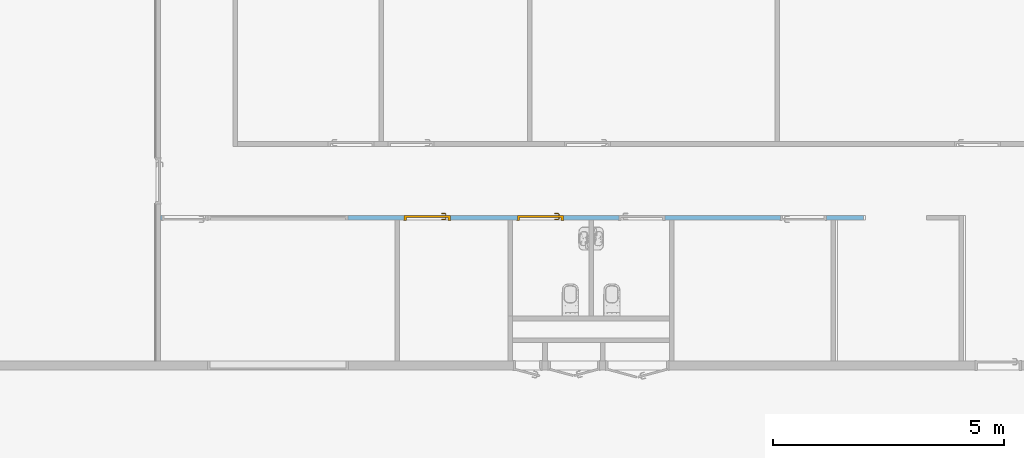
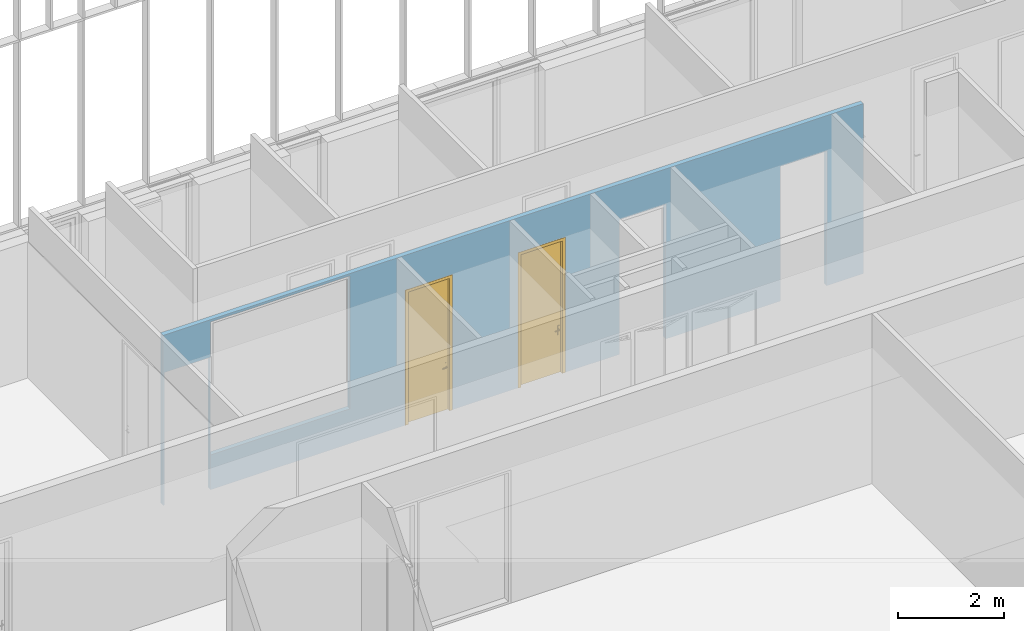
# One storey, part 141 of 240: 2 doors, 6 openings, plus 1 element that does not belong to this part.
"""IFC2X3 building model written with IfcOpenShell, lengths in centimetres."""

from ifc_helpers import new_model, entity, si_unit, converted_unit, derived_unit, direction, frame, frame_2d, origin, place, context, subcontext, project, spatial, polyline, rectangle, extrude, clip, bounded_halfspace, faceted_brep, source, transform, mapped, material, material_list, layer, layer_set, layer_usage, type_object, type_shapes, element, fill, save


model = new_model("IFC2X3")

# Units and contexts
model_context = context("Model", 3, precision=0.001, world=origin(), true_north=direction((6.12303176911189e-17, 1.0)))
body_context = subcontext(model_context, "Body", "Model", "MODEL_VIEW")
ifc_project = project(units=[si_unit("LENGTHUNIT", "METRE", prefix="CENTI"), si_unit("AREAUNIT", "SQUARE_METRE"), si_unit("VOLUMEUNIT", "CUBIC_METRE"), converted_unit("PLANEANGLEUNIT", "DEGREE", entity("IfcRatioMeasure", 0.0174532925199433), si_unit("PLANEANGLEUNIT", "RADIAN"), dimensions=[0, 0, 0, 0, 0, 0, 0]), si_unit("MASSUNIT", "GRAM", prefix="KILO"), derived_unit("MASSDENSITYUNIT", [(si_unit("MASSUNIT", "GRAM", prefix="KILO"), 1), (si_unit("LENGTHUNIT", "METRE"), -3)]), si_unit("TIMEUNIT", "SECOND"), si_unit("FREQUENCYUNIT", "HERTZ"), si_unit("THERMODYNAMICTEMPERATUREUNIT", "DEGREE_CELSIUS"), derived_unit("THERMALTRANSMITTANCEUNIT", [(si_unit("MASSUNIT", "GRAM", prefix="KILO"), 1), (si_unit("THERMODYNAMICTEMPERATUREUNIT", "KELVIN"), -1), (si_unit("TIMEUNIT", "SECOND"), -3)]), derived_unit("VOLUMETRICFLOWRATEUNIT", [(si_unit("LENGTHUNIT", "METRE"), 3), (si_unit("TIMEUNIT", "SECOND"), -1)]), si_unit("ELECTRICCURRENTUNIT", "AMPERE"), si_unit("ELECTRICVOLTAGEUNIT", "VOLT"), si_unit("POWERUNIT", "WATT"), si_unit("FORCEUNIT", "NEWTON", prefix="KILO"), si_unit("ILLUMINANCEUNIT", "LUX"), si_unit("LUMINOUSFLUXUNIT", "LUMEN"), si_unit("LUMINOUSINTENSITYUNIT", "CANDELA"), derived_unit("USERDEFINED", [(si_unit("MASSUNIT", "GRAM", prefix="KILO"), -1), (si_unit("LENGTHUNIT", "METRE"), -2), (si_unit("TIMEUNIT", "SECOND"), 3), (si_unit("LUMINOUSFLUXUNIT", "LUMEN"), 1)]), derived_unit("LINEARVELOCITYUNIT", [(si_unit("LENGTHUNIT", "METRE"), 1), (si_unit("TIMEUNIT", "SECOND"), -1)]), si_unit("PRESSUREUNIT", "PASCAL"), derived_unit("USERDEFINED", [(si_unit("LENGTHUNIT", "METRE"), -2), (si_unit("MASSUNIT", "GRAM", prefix="KILO"), 1), (si_unit("TIMEUNIT", "SECOND"), -2)])], contexts=[model_context])

# Site, building, storey
site_placement = place(None, frame((-2781.94577612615, 7442.24238424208, 0.0)))
site = spatial("IfcSite", under=ifc_project, at=site_placement, Name="Default", CompositionType="ELEMENT")
building_placement = place(site_placement, origin())
building = spatial("IfcBuilding", under=site, at=building_placement, CompositionType="ELEMENT")
storey_placement = place(building_placement, origin())
storey = spatial("IfcBuildingStorey", under=building, at=storey_placement, Name="N00 - COO", CompositionType="ELEMENT", Elevation=0.0)

# Wall, openings, doors
ifc_material_1 = material(Name="01 - Enduit/Plâtre")
ifc_layer_1 = layer(ifc_material_1, 1.3)
ifc_material_2 = material(Name="00 - Isolant")
ifc_layer_2 = layer(ifc_material_2, 7.4)
ifc_layer_3 = layer(ifc_material_1, 1.3)
ifc_layer_set = layer_set([ifc_layer_1, ifc_layer_2, ifc_layer_3], Name="Mur de base:06 - cloisons - Ba13 10cm")
ifc_layer_usage = layer_usage(ifc_layer_set, "AXIS2", "NEGATIVE", 5.0)
wall_type = type_object("IfcWallType", Name="Mur de base:06 - cloisons - Ba13 10cm", PredefinedType="STANDARD", material=ifc_layer_set)
wall_placement = place(building_placement, frame((-6043.49987760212, -500.0, 0.0), z_axis=(0.0, 0.0, 1.0), x_axis=(-1.0, 0.0, 0.0)))
wall = element("IfcWallStandardCase", 1, at=wall_placement, inside=storey, type_object=wall_type, material=ifc_layer_usage, Name="Mur de base:06 - cloisons - Ba13 10cm", ObjectType="Mur de base:06 - cloisons - Ba13 10cm", context=body_context, shape_type="Clipping", body=[
    clip(extrude(rectangle(XDim=1522.75, YDim=10.0000000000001, at=frame_2d((761.375000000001, 2.04281036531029e-14), x_axis=(-1.0, 0.0))), origin(), (0.0, 0.0, 1.0), 391.0), bounded_halfspace(frame((0.0, -5.0, 391.0), z_axis=(0.0, 0.0, -1.0), x_axis=(0.0, -1.0, 0.0)), True, frame((0.0, -5.0, 391.0)), polyline([(0.0, 0.0), (1522.75, 0.0), (1522.75, 10.0), (1015.0, 10.0), (1005.0, 10.0), (770.0, 10.0), (760.0, 10.0), (595.0, 10.0), (585.0, 10.0), (420.0, 10.0), (410.0, 10.0), (70.0, 10.0), (60.0, 10.0), (0.0, 10.0), (0.0, 0.0)]))),
])
opening_1_placement = place(wall_placement, frame((80.0, -5.0, 0.0)))
element("IfcOpeningElement", 2, at=opening_1_placement, cuts=wall, Name="Int. Simple:PP (0.93m x 3.06m):1", ObjectType="Opening", context=body_context, shape_type="SweptSolid", body=[
    extrude(rectangle(XDim=309.500000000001, YDim=99.9999999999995, at=frame_2d((154.750000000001, 50.0), x_axis=(1.0, 0.0))), frame((0.0, 0.0, 0.0), z_axis=(0.0, 1.0, 0.0), x_axis=(0.0, 0.0, 1.0)), (0.0, 0.0, 1.0), 10.0),
])
opening_2_placement = place(wall_placement, frame((530.0, 5.0, 0.0)))
element("IfcOpeningElement", 3, at=opening_2_placement, cuts=wall, Name="Int. Simple:PP (0.93m x 3.06m):1", ObjectType="Opening", context=body_context, shape_type="SweptSolid", body=[
    extrude(rectangle(XDim=309.500000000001, YDim=99.9999999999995, at=frame_2d((154.750000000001, 49.9999999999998), x_axis=(1.0, 0.0))), frame((0.0, 0.0, 0.0), z_axis=(0.0, -1.0, 0.0), x_axis=(0.0, 0.0, 1.0)), (0.0, 0.0, 1.0), 10.0),
])
opening_3_placement = place(wall_placement, frame((750.0, 5.0, 0.0)))
opening_3 = element("IfcOpeningElement", 4, at=opening_3_placement, cuts=wall, Name="Int. Simple:PP (0.93m x 3.06m):1", ObjectType="Opening", context=body_context, shape_type="SweptSolid", body=[
    extrude(rectangle(XDim=309.500000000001, YDim=99.9999999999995, at=frame_2d((154.750000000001, 50.0), x_axis=(1.0, 0.0))), frame((0.0, 0.0, 0.0), z_axis=(0.0, -1.0, 0.0), x_axis=(0.0, 0.0, 1.0)), (0.0, 0.0, 1.0), 10.0),
])
opening_4_placement = place(wall_placement, frame((995.0, 5.0, 0.0)))
opening_4 = element("IfcOpeningElement", 5, at=opening_4_placement, cuts=wall, Name="Int. Simple:PP (0.93m x 3.06m):1", ObjectType="Opening", context=body_context, shape_type="SweptSolid", body=[
    extrude(rectangle(XDim=309.500000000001, YDim=99.9999999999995, at=frame_2d((154.750000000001, 50.0), x_axis=(1.0, 0.0))), frame((0.0, 0.0, 0.0), z_axis=(0.0, -1.0, 0.0), x_axis=(0.0, 0.0, 1.0)), (0.0, 0.0, 1.0), 10.0),
])
opening_5_placement = place(wall_placement, frame((1420.0, -5.0, 0.0)))
element("IfcOpeningElement", 6, at=opening_5_placement, cuts=wall, Name="Int. Simple:PV (0.93m x 3.00m):1", ObjectType="Opening", context=body_context, shape_type="SweptSolid", body=[
    extrude(rectangle(XDim=304.500000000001, YDim=99.9999999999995, at=frame_2d((152.250000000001, 49.9999999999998), x_axis=(1.0, 0.0))), frame((0.0, 0.0, 0.0), z_axis=(0.0, 1.0, 0.0), x_axis=(0.0, 0.0, 1.0)), (0.0, 0.0, 1.0), 10.0),
])
opening_6_placement = place(wall_placement, frame((1116.72491693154, -5.0, 80.0)))
element("IfcOpeningElement", 7, at=opening_6_placement, cuts=wall, Name="châssis intérieur vitré:châssis intérieur vitré (h=306):1", ObjectType="Opening", context=body_context, shape_type="SweptSolid", body=[
    extrude(rectangle(XDim=306.0, YDim=302.862969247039, at=frame_2d((153.0, 151.43148462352), x_axis=(1.0, 0.0))), frame((0.0, 0.0, 0.0), z_axis=(0.0, 1.0, 0.0), x_axis=(0.0, 0.0, 1.0)), (0.0, 0.0, 1.0), 10.0),
])
ifc_material_3 = material(Name="Finition Peinture - Blanc satiné")
ifc_material_4 = material(Name="Bois - Panneau de porte")
ifc_material_5 = material(Name="Bois - Cadre de porte")
ifc_material_list_1 = material_list([ifc_material_3, ifc_material_4, ifc_material_5])
ifc_material_list_2 = material_list([ifc_material_3, ifc_material_4, ifc_material_5])
door_style = type_object("IfcDoorStyle", Name="PP (0.93m x 3.06m)", ConstructionType="NOTDEFINED", OperationType="SINGLE_SWING_LEFT", ParameterTakesPrecedence=False, Sizeable=False, material=ifc_material_list_2)
shared_shape = source(origin(), body_context, "Body", "Brep", [
    faceted_brep([(10.5352761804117, -0.500000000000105, 86.6003983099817), (11.5000000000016, -0.500000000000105, 87.0), (11.5000000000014, -0.500000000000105, 108.0), (10.5352761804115, -0.500000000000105, 108.399601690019), (9.50000000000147, -0.500000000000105, 108.535898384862), (8.46472381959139, -0.500000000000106, 108.399601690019), (7.50000000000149, -0.500000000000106, 108.0), (7.50000000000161, -0.500000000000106, 87.0), (8.46472381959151, -0.500000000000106, 86.6003983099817), (9.50000000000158, -0.500000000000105, 86.464101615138), (10.5352761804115, 0.0, 108.399601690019), (11.5000000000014, 0.0, 108.0), (11.5000000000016, 0.0, 87.0), (10.5352761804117, 0.0, 86.6003983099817), (9.50000000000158, 0.0, 86.464101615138), (8.46472381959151, 0.0, 86.6003983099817), (7.50000000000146, 0.0, 87.0), (7.50000000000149, 0.0, 108.0), (8.46472381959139, 0.0, 108.399601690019), (9.50000000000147, 0.0, 108.535898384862)], [[[0, 1, 2, 3, 4, 5, 6, 7, 8, 9]], [[10, 11, 12, 13, 14, 15, 16, 17, 18, 19]], [[16, 15, 8, 7]], [[8, 15, 14, 9]], [[14, 13, 0, 9]], [[13, 12, 1, 0]], [[2, 1, 12, 11]], [[11, 10, 3, 2]], [[3, 10, 19, 4]], [[19, 18, 5, 4]], [[18, 17, 6, 5]], [[7, 6, 17, 16]]]),
    faceted_brep([(10.5352761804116, 4.0, 86.6003983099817), (11.5000000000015, 4.0, 87.0), (11.5000000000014, 4.0, 108.0), (10.5352761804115, 4.0, 108.399601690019), (9.50000000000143, 4.0, 108.535898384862), (8.46472381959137, 4.0, 108.399601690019), (7.50000000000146, 4.0, 108.0), (7.50000000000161, 4.0, 87.0), (8.46472381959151, 4.0, 86.6003983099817), (9.50000000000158, 4.0, 86.464101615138), (10.5352761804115, 4.49999999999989, 108.399601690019), (11.5000000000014, 4.49999999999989, 108.0), (11.5000000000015, 4.49999999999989, 87.0), (10.5352761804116, 4.49999999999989, 86.6003983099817), (9.50000000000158, 4.49999999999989, 86.464101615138), (8.46472381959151, 4.49999999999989, 86.6003983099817), (7.50000000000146, 4.49999999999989, 87.0), (7.50000000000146, 4.49999999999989, 108.0), (8.46472381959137, 4.49999999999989, 108.399601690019), (9.50000000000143, 4.49999999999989, 108.535898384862)], [[[0, 1, 2, 3, 4, 5, 6, 7, 8, 9]], [[10, 11, 12, 13, 14, 15, 16, 17, 18, 19]], [[11, 10, 3, 2]], [[3, 10, 19, 4]], [[19, 18, 5, 4]], [[18, 17, 6, 5]], [[7, 6, 17, 16]], [[16, 15, 8, 7]], [[8, 15, 14, 9]], [[14, 13, 0, 9]], [[13, 12, 1, 0]], [[2, 1, 12, 11]]]),
    faceted_brep([(9.29747013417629, -0.500000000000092, 100.778044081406), (9.70252986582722, -0.50000000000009, 100.778044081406), (10.1000000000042, -0.500000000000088, 100.699999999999), (10.1000000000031, -0.500000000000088, 99.3000000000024), (9.7025298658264, -0.50000000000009, 99.2219559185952), (9.29747013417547, -0.500000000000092, 99.221955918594), (8.8999999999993, -0.500000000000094, 99.2999999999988), (8.89999999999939, -0.500000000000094, 100.7), (8.89999999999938, -3.26509507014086, 100.7), (9.29747013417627, -3.10045754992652, 100.778044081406), (10.9023585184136, -4.70534593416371, 100.778044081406), (11.0701397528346, -4.30028620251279, 100.778044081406), (9.7025298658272, -2.93267631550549, 100.778044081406), (10.1000000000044, -2.76803879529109, 100.7), (10.1000000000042, -2.76803879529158, 99.3000000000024), (9.7025298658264, -2.93267631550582, 99.2219559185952), (11.0701397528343, -4.30028620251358, 99.2219559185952), (10.9023585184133, -4.70534593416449, 99.221955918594), (9.29747013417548, -3.10045754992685, 99.221955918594), (8.89999999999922, -3.26509507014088, 99.2999999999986), (10.7377209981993, -5.10281606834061, 100.7), (11.2347772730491, -3.90281606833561, 100.7), (11.2347772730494, -3.90281606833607, 99.3000000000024), (10.7377209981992, -5.10281606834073, 99.2999999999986), (19.5018640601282, -5.10281606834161, 99.2999999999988), (19.5018640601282, -4.70534593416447, 99.221955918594), (19.5018640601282, -4.30028620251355, 99.2219559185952), (19.5018640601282, -3.9028160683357, 99.3000000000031), (19.5018640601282, -3.90281606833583, 100.7), (19.5018640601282, -4.30028620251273, 100.778044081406), (19.5018640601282, -4.70534593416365, 100.778044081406), (19.5018640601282, -5.10281606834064, 100.699999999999), (14.7307697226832, -5.10281606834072, 100.7), (15.2860019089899, -4.5028160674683, 100.78786867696), (15.3683206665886, -3.9028160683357, 100.7), (15.3683206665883, -3.9028160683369, 99.3000000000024), (15.2860018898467, -4.50281607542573, 99.2121313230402), (14.7307700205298, -5.10281606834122, 99.2999999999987)], [[[0, 1, 2, 3, 4, 5, 6, 7]], [[8, 9, 0, 7]], [[9, 10, 11, 12, 1, 0]], [[12, 13, 2, 1]], [[3, 2, 13, 14]], [[14, 15, 4, 3]], [[15, 16, 17, 18, 5, 4]], [[18, 19, 6, 5]], [[7, 6, 19, 8]], [[20, 10, 9, 8]], [[11, 21, 13, 12]], [[14, 13, 21, 22]], [[22, 16, 15, 14]], [[17, 23, 19, 18]], [[8, 19, 23, 20]], [[24, 25, 26, 27, 28, 29, 30, 31]], [[32, 30, 33]], [[31, 30, 32]], [[10, 20, 32]], [[33, 34, 11]], [[21, 11, 34]], [[34, 29, 28]], [[30, 29, 33]], [[29, 34, 33]], [[10, 32, 33]], [[10, 33, 11]], [[22, 21, 34, 28, 27, 35]], [[35, 26, 36]], [[37, 36, 25]], [[22, 35, 16]], [[35, 27, 26]], [[24, 37, 25]], [[23, 17, 37]], [[37, 17, 36]], [[17, 16, 36]], [[16, 35, 36]], [[25, 36, 26]], [[20, 23, 37, 24, 31, 32]]]),
    faceted_brep([(9.29747013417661, 4.49999999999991, 100.778044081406), (8.89999999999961, 4.4999999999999, 100.7), (8.89999999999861, 4.4999999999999, 99.2999999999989), (9.29747013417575, 4.49999999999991, 99.221955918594), (9.70252986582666, 4.49999999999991, 99.2219559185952), (10.1000000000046, 4.49999999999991, 99.3000000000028), (10.1000000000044, 4.49999999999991, 100.7), (9.70252986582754, 4.49999999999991, 100.778044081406), (10.1000000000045, 6.7485204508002, 99.3000000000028), (10.1000000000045, 6.74852045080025, 100.7), (9.70252986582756, 6.91315797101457, 100.778044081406), (11.083890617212, 8.29451872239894, 100.778044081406), (10.916109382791, 8.69957845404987, 100.778044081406), (9.29747013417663, 7.0809392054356, 100.778044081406), (8.89999999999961, 7.24557672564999, 100.7), (8.89999999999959, 7.2455767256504, 99.2999999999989), (9.29747013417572, 7.08093920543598, 99.221955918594), (10.9161093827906, 8.69957845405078, 99.221955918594), (11.0838906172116, 8.29451872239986, 99.2219559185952), (9.70252986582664, 6.91315797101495, 99.2219559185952), (11.2485281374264, 7.89704858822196, 99.3000000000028), (11.2485281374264, 7.89704858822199, 100.7), (10.7514718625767, 9.09704858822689, 100.7), (10.7514718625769, 9.0970485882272, 99.2999999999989), (19.5045783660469, 7.89704858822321, 99.3000000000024), (19.5045783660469, 8.29451872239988, 99.2219559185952), (19.5045783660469, 8.6995784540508, 99.221955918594), (19.5045783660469, 9.09704858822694, 99.2999999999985), (19.5045783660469, 9.09704858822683, 100.7), (19.5045783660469, 8.69957845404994, 100.778044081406), (19.5045783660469, 8.29451872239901, 100.778044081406), (19.5045783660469, 7.89704858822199, 100.7), (15.3765520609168, 7.89704858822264, 99.3000000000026), (15.3765532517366, 7.89704858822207, 100.7), (15.294234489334, 8.49704858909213, 100.78786867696), (14.7445205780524, 9.09704858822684, 100.7), (14.7445204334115, 9.09704858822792, 99.2999999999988), (15.2942345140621, 8.49704858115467, 99.2121313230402)], [[[0, 1, 2, 3, 4, 5, 6, 7]], [[6, 5, 8, 9]], [[9, 10, 7, 6]], [[10, 11, 12, 13, 0, 7]], [[13, 14, 1, 0]], [[2, 1, 14, 15]], [[15, 16, 3, 2]], [[16, 17, 18, 19, 4, 3]], [[19, 8, 5, 4]], [[9, 8, 20, 21]], [[21, 11, 10, 9]], [[12, 22, 14, 13]], [[15, 14, 22, 23]], [[23, 17, 16, 15]], [[18, 20, 8, 19]], [[24, 25, 26, 27, 28, 29, 30, 31]], [[21, 20, 32, 24, 31, 33]], [[33, 30, 34]], [[35, 34, 29]], [[21, 33, 11]], [[33, 31, 30]], [[28, 35, 29]], [[22, 12, 35]], [[35, 12, 34]], [[12, 11, 34]], [[11, 33, 34]], [[29, 34, 30]], [[22, 35, 28, 27, 36, 23]], [[36, 26, 37]], [[27, 26, 36]], [[17, 23, 36]], [[37, 32, 18]], [[20, 18, 32]], [[32, 25, 24]], [[26, 25, 37]], [[25, 32, 37]], [[17, 36, 37]], [[17, 37, 18]]]),
    faceted_brep([(3.50000000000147, 4.0, 306.0), (96.5000000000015, 4.0, 306.0), (96.5000000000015, 4.0, 0.0), (3.50000000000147, 4.0, 0.0), (3.50000000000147, 0.0, 306.0), (3.50000000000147, 0.0, 0.0), (96.5000000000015, 0.0, 0.0), (96.5000000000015, 0.0, 306.0)], [[[0, 1, 2, 3]], [[4, 5, 6, 7]], [[1, 0, 4, 7]], [[2, 1, 7, 6]], [[3, 2, 6, 5]], [[0, 3, 5, 4]]]),
    faceted_brep([(0.0, 10.0, 0.0), (-1.50000000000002, 10.0, 0.0), (-1.50000000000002, 10.5000000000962, 0.0), (5.0, 10.5000000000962, 0.0), (5.0, 4.0, 0.0), (3.50000000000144, 4.0, 0.0), (3.50000000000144, -0.500000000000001, 0.0), (-1.50000000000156, -0.500000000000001, 0.0), (-1.50000000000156, 0.0, 0.0), (0.0, 0.0, 0.0), (0.0, 10.0, 309.500000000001), (100.0, 10.0, 309.500000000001), (100.0, 10.0, 0.0), (101.5, 10.0, 0.0), (101.5, 10.0, 311.0), (-1.50000000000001, 10.0, 311.0), (-1.50000000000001, 10.5000000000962, 311.0), (101.5, 10.5000000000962, 311.0), (101.5, 10.5000000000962, 0.0), (95.0, 10.5000000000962, 0.0), (95.0, 10.5000000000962, 304.5), (5.0, 10.5000000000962, 304.5), (5.0, 4.0, 304.5), (95.0, 4.0, 304.5), (95.0, 4.0, 0.0), (96.4999999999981, 4.0, 0.0), (96.4999999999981, 4.0, 306.0), (3.50000000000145, 4.0, 306.0), (3.50000000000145, -0.500000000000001, 306.0), (96.4999999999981, -0.500000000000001, 306.0), (96.4999999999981, -0.500000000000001, 0.0), (101.500000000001, -0.500000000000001, 0.0), (101.500000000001, -0.500000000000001, 311.0), (-1.50000000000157, -0.500000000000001, 311.0), (-1.50000000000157, 0.0, 311.0), (101.500000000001, 0.0, 311.0), (101.500000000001, 0.0, 0.0), (100.0, 0.0, 0.0), (100.0, 0.0, 309.500000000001), (0.0, 0.0, 309.500000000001)], [[[0, 1, 2, 3, 4, 5, 6, 7, 8, 9]], [[1, 0, 10, 11, 12, 13, 14, 15]], [[2, 1, 15, 16]], [[3, 2, 16, 17, 18, 19, 20, 21]], [[3, 21, 22, 4]], [[5, 4, 22, 23, 24, 25, 26, 27]], [[5, 27, 28, 6]], [[7, 6, 28, 29, 30, 31, 32, 33]], [[8, 7, 33, 34]], [[9, 8, 34, 35, 36, 37, 38, 39]], [[0, 9, 39, 10]], [[11, 38, 37, 12]], [[12, 37, 36, 31, 30, 25, 24, 19, 18, 13]], [[17, 14, 13, 18]], [[23, 20, 19, 24]], [[29, 26, 25, 30]], [[35, 32, 31, 36]], [[16, 15, 14, 17]], [[22, 21, 20, 23]], [[28, 27, 26, 29]], [[34, 33, 32, 35]], [[10, 39, 38, 11]]]),
])
type_shapes(door_style, [shared_shape])
door_1_placement = place(opening_3_placement, frame((-100.0, -10.0, 0.0)))
door_1 = element("IfcDoor", 8, at=door_1_placement, inside=storey, type_object=door_style, material=ifc_material_list_1, Name="Int. Simple:PP (0.93m x 3.06m)", ObjectType="Int. Simple:PP (0.93m x 3.06m)", OverallHeight=309.500000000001, OverallWidth=99.9999999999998, context=body_context, shape_type="MappedRepresentation", body=[
    mapped(shared_shape, transform((0.0, 0.0, 0.0), scale=1.0)),
])
fill(opening_3, door_1)
ifc_material_list_3 = material_list([ifc_material_3, ifc_material_4, ifc_material_5])
door_2_placement = place(opening_4_placement, frame((-100.0, -10.0, 0.0)))
door_2 = element("IfcDoor", 9, at=door_2_placement, inside=storey, type_object=door_style, material=ifc_material_list_3, Name="Int. Simple:PP (0.93m x 3.06m)", ObjectType="Int. Simple:PP (0.93m x 3.06m)", OverallHeight=309.500000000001, OverallWidth=99.9999999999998, context=body_context, shape_type="MappedRepresentation", body=[
    mapped(shared_shape, transform((0.0, 0.0, 0.0), scale=1.0)),
])
fill(opening_4, door_2)

save(model, "model.ifc")
